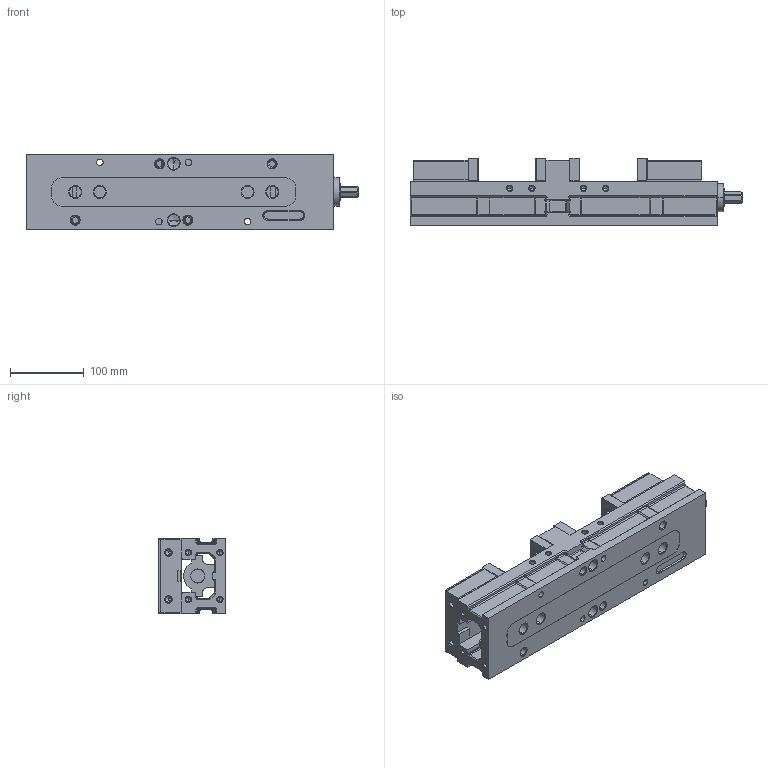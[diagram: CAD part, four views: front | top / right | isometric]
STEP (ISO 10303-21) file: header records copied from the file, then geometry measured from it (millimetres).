
FILE_DESCRIPTION (( 'STEP AP214' ), '1' );
FILE_NAME ('05-0182.STEP', '2022-02-07T17:02:40', ( '' ), ( '' ), 'SwSTEP 2.0', 'SolidWorks 2021', '' );
FILE_SCHEMA (( 'AUTOMOTIVE_DESIGN' ));
Length unit declared in the file: inch
Products named in the file (11): HDL4J-WEB_2; 05-0182; HDL4J-WEB_3; HDL4J-WEB_5; HDL4J-WEB_8; HDL4J-WEB_4; HDL4J-WEB_6; HDL4J-WEB_10; HDL4J-WEB_7; HDL4J-WEB; HDL4J-WEB_9
Assembly tree (10 placements, depth 2):
  05-0182
    HDL4J-WEB_3
    HDL4J-WEB_10
    HDL4J-WEB_2
    HDL4J-WEB
    HDL4J-WEB_8
    HDL4J-WEB_6
    HDL4J-WEB_5
    HDL4J-WEB_4
    HDL4J-WEB_7
    HDL4J-WEB_9
Bounding box: 449.61 x 91.69 x 101.6 mm (x, y, z)
Volume: 2045557.2 mm3; surface area: 378976 mm2
Topology: 10 solids, 16 shells, 1309 faces, 3197 edges, 1905 vertices
Faces by surface type: plane 538, cylinder 387, cone 292, bspline 92
Entity records: 43264 total; most frequent: CARTESIAN_POINT 12644, DIRECTION 6366, ORIENTED_EDGE 6226, EDGE_CURVE 3113, AXIS2_PLACEMENT_3D 2311, VERTEX_POINT 1905, VECTOR 1744, LINE 1744
